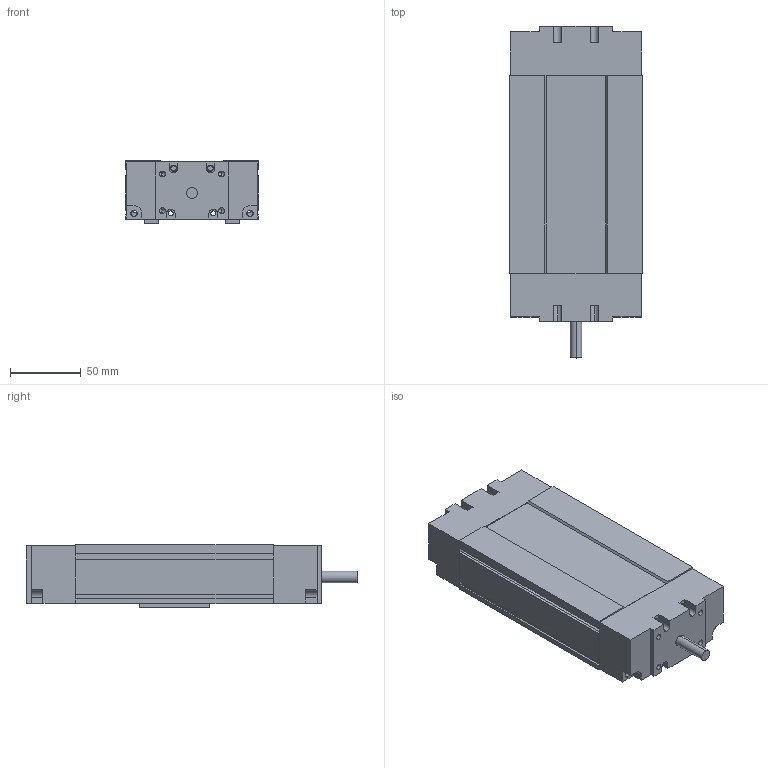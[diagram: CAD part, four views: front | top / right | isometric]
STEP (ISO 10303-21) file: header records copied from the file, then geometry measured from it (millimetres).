
FILE_DESCRIPTION (( 'STEP AP203' ), '1' );
FILE_NAME ('MSY94B-60-LL1205-P7.STEP', '2013-11-02T03:22:53', ( '微软用户' ), ( '微软中国' ), 'SwSTEP 2.0', 'SolidWorks 2010', '' );
FILE_SCHEMA (( 'CONFIG_CONTROL_DESIGN' ));
Length unit declared in the file: millimetre
Products named in the file (1): MSY94B-60-LL1205-P7
Bounding box: 94 x 235 x 44.5 mm (x, y, z)
Volume: 691727.9 mm3; surface area: 119177.2 mm2
Topology: 1 solids, 1 shells, 312 faces, 856 edges, 544 vertices
Faces by surface type: plane 222, cylinder 74, cone 16
Entity records: 9777 total; most frequent: CARTESIAN_POINT 1697, ORIENTED_EDGE 1680, DIRECTION 1622, EDGE_CURVE 840, VECTOR 684, LINE 684, VERTEX_POINT 544, AXIS2_PLACEMENT_3D 469
